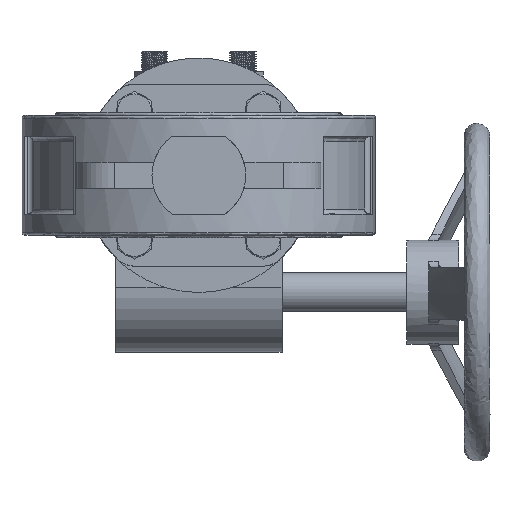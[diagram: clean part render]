
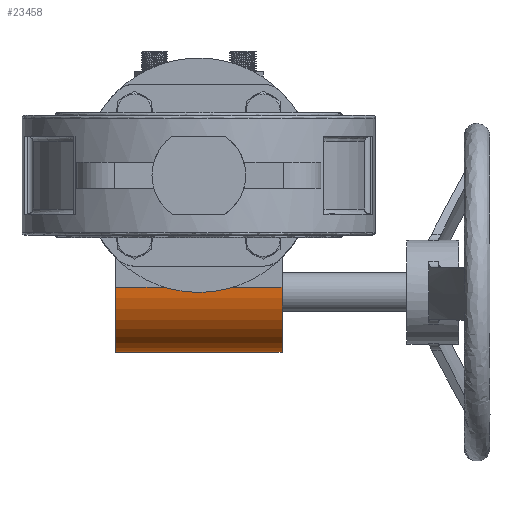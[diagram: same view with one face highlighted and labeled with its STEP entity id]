
A CAD part, front view. The second image highlights one B-rep face of the part: STEP entity #23458.
In plain terms, the highlighted cylindrical face has radius 25 mm (diameter 50 mm), a partial arc.
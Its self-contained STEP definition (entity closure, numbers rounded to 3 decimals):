
#839 = CARTESIAN_POINT ( 'NONE',  ( -22.838, 165.906, -43. ) ) ;
#1366 = LINE ( 'NONE', #21357, #16258 ) ;
#1838 = ORIENTED_EDGE ( 'NONE', *, *, #15116, .F. ) ;
#2618 = DIRECTION ( 'NONE',  ( 1., 0., 0. ) ) ;
#2931 = VECTOR ( 'NONE', #32424, 1000. ) ;
#3154 = AXIS2_PLACEMENT_3D ( 'NONE', #40642, #34335, #30678 ) ;
#3679 = CARTESIAN_POINT ( 'NONE',  ( 22.462, 165.906, -43. ) ) ;
#5044 = DIRECTION ( 'NONE',  ( -1., 0., 0. ) ) ;
#5412 = EDGE_CURVE ( 'NONE', #32709, #34614, #7991, .T. ) ;
#7759 = VERTEX_POINT ( 'NONE', #3679 ) ;
#7991 = CIRCLE ( 'NONE', #3154, 25. ) ;
#8237 = EDGE_CURVE ( 'NONE', #7759, #18757, #19295, .T. ) ;
#12129 = CARTESIAN_POINT ( 'NONE',  ( 9.162, 190.906, -68. ) ) ;
#12166 = EDGE_CURVE ( 'NONE', #17515, #7759, #30021, .T. ) ;
#13562 = ORIENTED_EDGE ( 'NONE', *, *, #8237, .T. ) ;
#13902 = DIRECTION ( 'NONE',  ( -1., 0., 0. ) ) ;
#14332 = DIRECTION ( 'NONE',  ( 1., 0., 0. ) ) ;
#15116 = EDGE_CURVE ( 'NONE', #17515, #23685, #40433, .T. ) ;
#16258 = VECTOR ( 'NONE', #5044, 1000. ) ;
#16552 = VECTOR ( 'NONE', #23147, 1000. ) ;
#16832 = CARTESIAN_POINT ( 'NONE',  ( 41.162, 165.906, -43. ) ) ;
#17515 = VERTEX_POINT ( 'NONE', #16832 ) ;
#17898 = CARTESIAN_POINT ( 'NONE',  ( -4.138, 165.906, -43. ) ) ;
#18757 = VERTEX_POINT ( 'NONE', #17898 ) ;
#18995 = LINE ( 'NONE', #12129, #31762 ) ;
#19295 = LINE ( 'NONE', #38701, #2931 ) ;
#20132 = CARTESIAN_POINT ( 'NONE',  ( 9.162, 165.906, -43. ) ) ;
#21357 = CARTESIAN_POINT ( 'NONE',  ( 9.162, 165.906, -43. ) ) ;
#23121 = DIRECTION ( 'NONE',  ( 0., 0., 1. ) ) ;
#23147 = DIRECTION ( 'NONE',  ( -1., 0., 0. ) ) ;
#23458 = ADVANCED_FACE ( 'NONE', ( #38898 ), #28736, .T. ) ;
#23685 = VERTEX_POINT ( 'NONE', #37121 ) ;
#24538 = AXIS2_PLACEMENT_3D ( 'NONE', #33887, #14332, #41451 ) ;
#27116 = EDGE_LOOP ( 'NONE', ( #33715, #40133, #1838, #41497, #13562, #31820 ) ) ;
#27390 = EDGE_CURVE ( 'NONE', #34614, #23685, #18995, .T. ) ;
#28736 = CYLINDRICAL_SURFACE ( 'NONE', #36365, 25. ) ;
#30021 = LINE ( 'NONE', #20132, #16552 ) ;
#30678 = DIRECTION ( 'NONE',  ( 0., 0., 1. ) ) ;
#30926 = EDGE_CURVE ( 'NONE', #18757, #32709, #1366, .T. ) ;
#31762 = VECTOR ( 'NONE', #2618, 1000. ) ;
#31820 = ORIENTED_EDGE ( 'NONE', *, *, #30926, .T. ) ;
#32424 = DIRECTION ( 'NONE',  ( -1., 0., 0. ) ) ;
#32709 = VERTEX_POINT ( 'NONE', #839 ) ;
#32831 = CARTESIAN_POINT ( 'NONE',  ( 9.162, 190.906, -43. ) ) ;
#33715 = ORIENTED_EDGE ( 'NONE', *, *, #5412, .T. ) ;
#33887 = CARTESIAN_POINT ( 'NONE',  ( 41.162, 190.906, -43. ) ) ;
#34335 = DIRECTION ( 'NONE',  ( 1., 0., 0. ) ) ;
#34614 = VERTEX_POINT ( 'NONE', #38763 ) ;
#36365 = AXIS2_PLACEMENT_3D ( 'NONE', #32831, #13902, #23121 ) ;
#37121 = CARTESIAN_POINT ( 'NONE',  ( 41.162, 190.906, -68. ) ) ;
#38701 = CARTESIAN_POINT ( 'NONE',  ( 9.162, 165.906, -43. ) ) ;
#38763 = CARTESIAN_POINT ( 'NONE',  ( -22.838, 190.906, -68. ) ) ;
#38898 = FACE_OUTER_BOUND ( 'NONE', #27116, .T. ) ;
#40133 = ORIENTED_EDGE ( 'NONE', *, *, #27390, .T. ) ;
#40433 = CIRCLE ( 'NONE', #24538, 25. ) ;
#40642 = CARTESIAN_POINT ( 'NONE',  ( -22.838, 190.906, -43. ) ) ;
#41451 = DIRECTION ( 'NONE',  ( 0., 0., 1. ) ) ;
#41497 = ORIENTED_EDGE ( 'NONE', *, *, #12166, .T. ) ;
